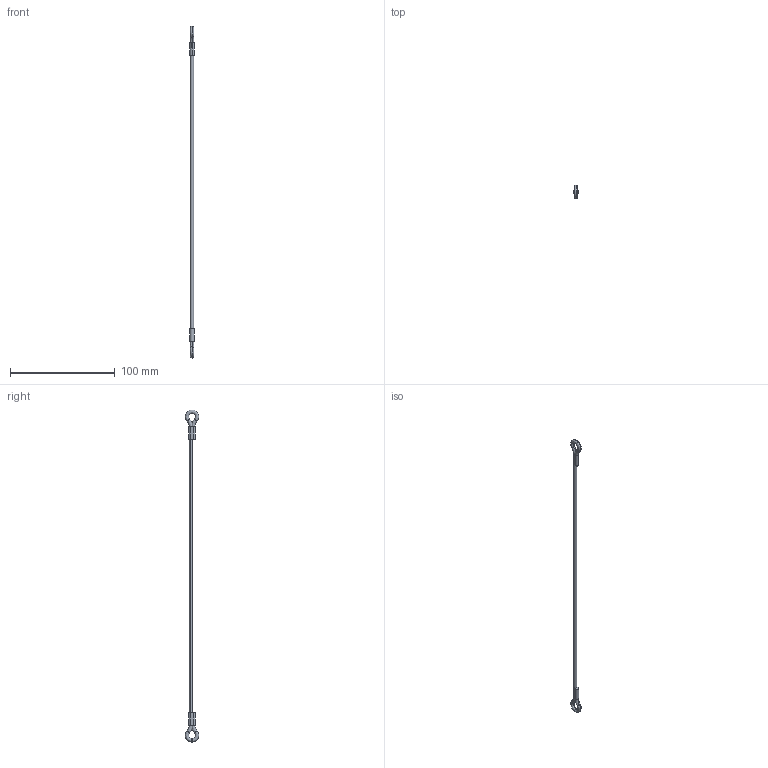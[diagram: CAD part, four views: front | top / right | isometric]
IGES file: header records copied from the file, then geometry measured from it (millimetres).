
Start section: SolidWorks IGES file using analytic representation for surfaces
Global section: file name: C:\Users\ianosborn\Desktop\LA1065_v2\LA1065_v2_20260320_IGES\LA1065.I06-304C1.igs; native system: SolidWorks 2019; preprocessor: SolidWorks 2019; author: IanOsborn; date: 260323.154554; units: millimetre
Bounding box: 3.99 x 12.77 x 317.56 mm (x, y, z)
Surface area: 3761.9 mm2 (no closed solid volume)
Topology: 0 solids, 0 shells, 30 faces, 416 edges, 416 vertices
Faces by surface type: bspline 22, revolution 8
